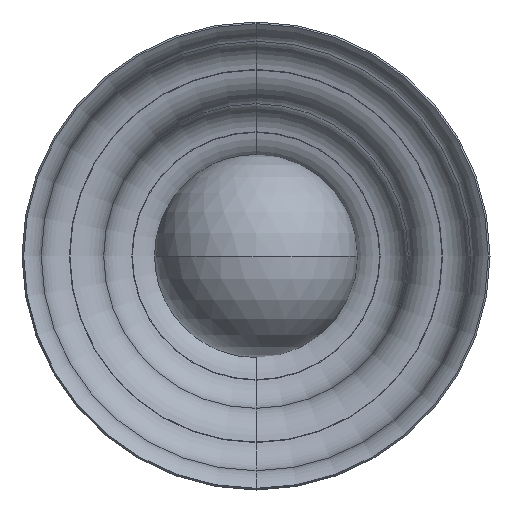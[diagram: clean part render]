
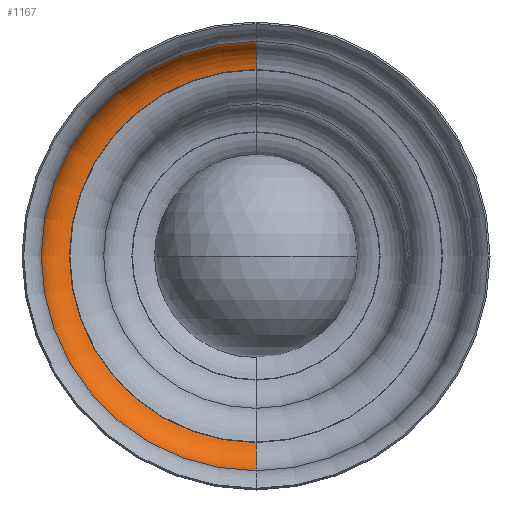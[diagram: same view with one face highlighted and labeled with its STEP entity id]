
A CAD part, front view. The second image highlights one B-rep face of the part: STEP entity #1167.
In plain terms, the highlighted toroidal (fillet/blend) face has major radius 89.183 mm and minor radius 16.562 mm.
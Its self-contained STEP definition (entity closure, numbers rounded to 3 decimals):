
#2 = ORIENTED_EDGE ( 'NONE', *, *, #876, .F. ) ;
#34 = EDGE_CURVE ( 'NONE', #158, #818, #445, .T. ) ;
#87 = CARTESIAN_POINT ( 'NONE',  ( -0.058, -115.636, 105.74 ) ) ;
#102 = CARTESIAN_POINT ( 'NONE',  ( -0.058, -99.691, 91.643 ) ) ;
#105 = VERTEX_POINT ( 'NONE', #102 ) ;
#138 = DIRECTION ( 'NONE',  ( 0., 1., 0. ) ) ;
#139 = EDGE_LOOP ( 'NONE', ( #1033, #483, #1071, #2 ) ) ;
#158 = VERTEX_POINT ( 'NONE', #269 ) ;
#191 = AXIS2_PLACEMENT_3D ( 'NONE', #1081, #1281, #863 ) ;
#217 = DIRECTION ( 'NONE',  ( 0., 1., 0. ) ) ;
#257 = DIRECTION ( 'NONE',  ( -1., 0., 0. ) ) ;
#269 = CARTESIAN_POINT ( 'NONE',  ( -0.058, -115.636, -105.74 ) ) ;
#304 = DIRECTION ( 'NONE',  ( 1., 0., 0. ) ) ;
#341 = AXIS2_PLACEMENT_3D ( 'NONE', #746, #217, #1240 ) ;
#445 = CIRCLE ( 'NONE', #622, 16.562 ) ;
#449 = DIRECTION ( 'NONE',  ( 0., 0., 1. ) ) ;
#458 = AXIS2_PLACEMENT_3D ( 'NONE', #1183, #257, #982 ) ;
#483 = ORIENTED_EDGE ( 'NONE', *, *, #34, .T. ) ;
#622 = AXIS2_PLACEMENT_3D ( 'NONE', #1218, #304, #1326 ) ;
#641 = FACE_OUTER_BOUND ( 'NONE', #139, .T. ) ;
#678 = CARTESIAN_POINT ( 'NONE',  ( -0.058, -115.636, 0. ) ) ;
#746 = CARTESIAN_POINT ( 'NONE',  ( -0.058, -116.069, 0. ) ) ;
#760 = VERTEX_POINT ( 'NONE', #87 ) ;
#779 = CIRCLE ( 'NONE', #191, 91.643 ) ;
#818 = VERTEX_POINT ( 'NONE', #1065 ) ;
#863 = DIRECTION ( 'NONE',  ( 0., 0., 1. ) ) ;
#876 = EDGE_CURVE ( 'NONE', #760, #105, #916, .T. ) ;
#882 = AXIS2_PLACEMENT_3D ( 'NONE', #678, #138, #449 ) ;
#916 = CIRCLE ( 'NONE', #458, 16.562 ) ;
#919 = EDGE_CURVE ( 'NONE', #158, #760, #1292, .T. ) ;
#923 = EDGE_CURVE ( 'NONE', #818, #105, #779, .T. ) ;
#982 = DIRECTION ( 'NONE',  ( 0., 0., 1. ) ) ;
#1033 = ORIENTED_EDGE ( 'NONE', *, *, #919, .F. ) ;
#1065 = CARTESIAN_POINT ( 'NONE',  ( -0.058, -99.691, -91.643 ) ) ;
#1071 = ORIENTED_EDGE ( 'NONE', *, *, #923, .T. ) ;
#1072 = TOROIDAL_SURFACE ( 'NONE', #341, 89.183, 16.562 ) ;
#1081 = CARTESIAN_POINT ( 'NONE',  ( -0.058, -99.691, 0. ) ) ;
#1167 = ADVANCED_FACE ( 'NONE', ( #641 ), #1072, .F. ) ;
#1183 = CARTESIAN_POINT ( 'NONE',  ( -0.058, -116.069, 89.183 ) ) ;
#1218 = CARTESIAN_POINT ( 'NONE',  ( -0.058, -116.069, -89.183 ) ) ;
#1240 = DIRECTION ( 'NONE',  ( 0., 0., 1. ) ) ;
#1281 = DIRECTION ( 'NONE',  ( 0., 1., 0. ) ) ;
#1292 = CIRCLE ( 'NONE', #882, 105.74 ) ;
#1326 = DIRECTION ( 'NONE',  ( 0., 0., -1. ) ) ;
